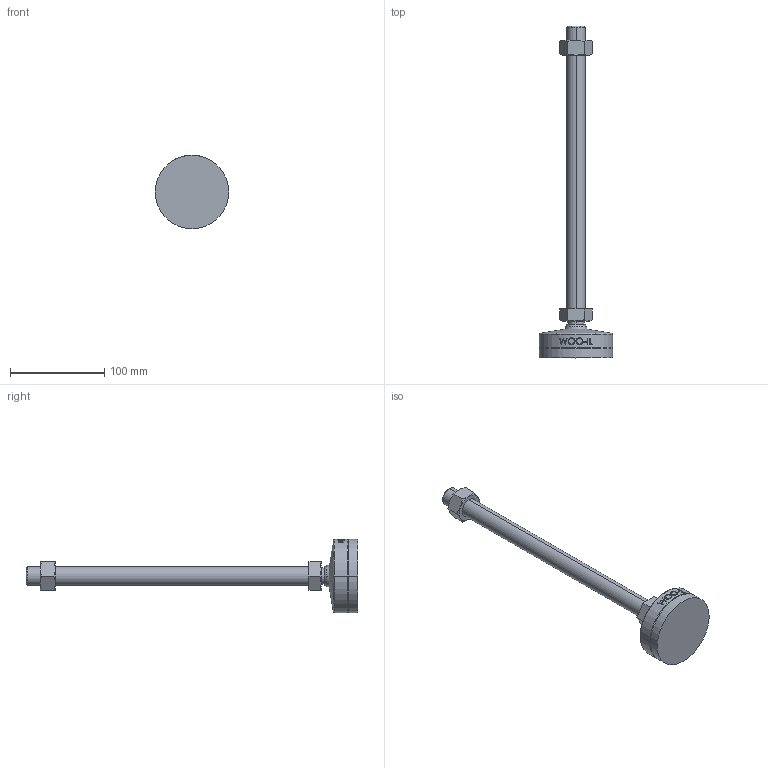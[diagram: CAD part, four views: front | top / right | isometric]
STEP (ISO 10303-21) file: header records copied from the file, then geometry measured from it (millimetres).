
FILE_DESCRIPTION (( 'STEP AP214' ), '1' );
FILE_NAME ('MFNR78-M20-300.step', '2021-02-22T09:09:04', ( '' ), ( '' ), 'SwSTEP 2.0', 'SolidWorks 2019', '' );
FILE_SCHEMA (( 'AUTOMOTIVE_DESIGN' ));
Length unit declared in the file: millimetre
Products named in the file (2): MFNR78-M20-300
Bounding box: 78 x 352 x 78 mm (x, y, z)
Volume: 248436.2 mm3; surface area: 41388.3 mm2
Topology: 2 solids, 2 shells, 105 faces, 245 edges, 156 vertices
Faces by surface type: plane 47, cone 18, cylinder 18, bspline 16, torus 4, sphere 2
Entity records: 4529 total; most frequent: CARTESIAN_POINT 2192, ORIENTED_EDGE 490, DIRECTION 437, EDGE_CURVE 245, AXIS2_PLACEMENT_3D 167, VERTEX_POINT 156, EDGE_LOOP 119, ADVANCED_FACE 105
